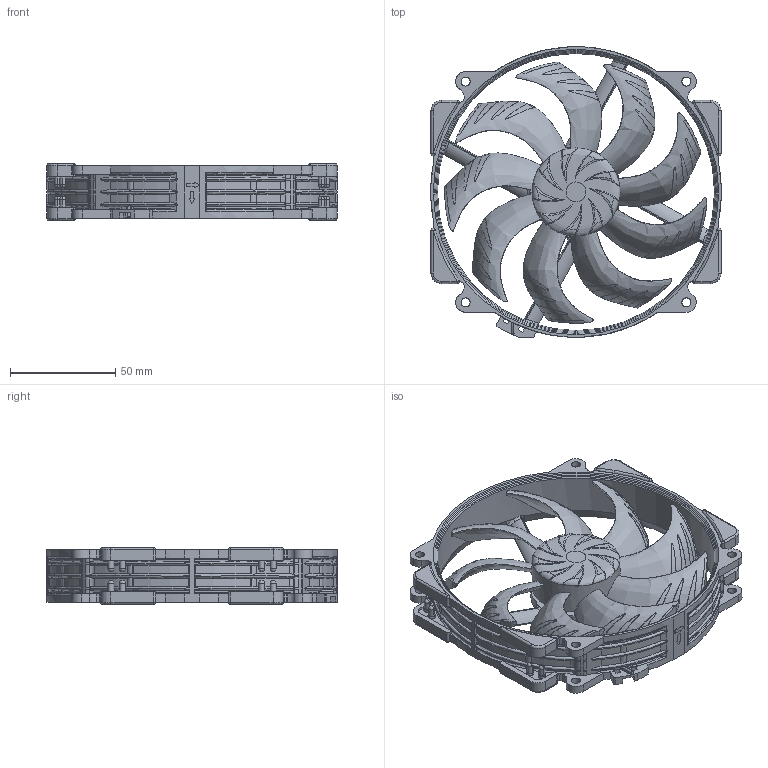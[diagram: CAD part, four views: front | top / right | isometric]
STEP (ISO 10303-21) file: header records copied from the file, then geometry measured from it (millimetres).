
FILE_DESCRIPTION(/* description */ ('140mm Desk Fan'),/* implementation_level */ '2;1');
FILE_NAME(/* name */ 'NF-A14x25r_G2_Public-CAD',/* time_stamp */ '2026-04-09T17:33:02+02:00',/* author */ ('Andreas'),/* organization */ ('Rascom'),/* preprocessor_version */ 'ST-DEVELOPER v18.102',/* originating_system */ 'Solid Edge',/* authorisation */ 'Unknown');
FILE_SCHEMA (('AP203_CONFIGURATION_CONTROLLED_3D_DESIGN_OF_MECHANICAL_PARTS_AND_ASSEMBLIES_MIM_LF { 1 0 10303 203 3 1 4 }','AUTOMOTIVE_DESIGN {1 0 10303 214 3 1 1}'));
Products named in the file (6): NF-A14x25r_G2_Public-CAD; NF-A14x25r_G2_Frame-Public; NF-A14x25_G2_Impeller-Public; NA-AVP3a; NA-AVP3b; Fan-Label-D38mm-G2
Assembly tree (11 placements, depth 2):
  NF-A14x25r_G2_Public-CAD
    NF-A14x25r_G2_Frame-Public
    NF-A14x25_G2_Impeller-Public
    NA-AVP3a  x4
    NA-AVP3b  x4
    Fan-Label-D38mm-G2
Bounding box: 138 x 138.4 x 27 mm (x, y, z)
Volume: 104575.3 mm3; surface area: 74862.9 mm2
Topology: 11 solids, 11 shells, 2415 faces, 6657 edges, 4350 vertices
Faces by surface type: cylinder 977, plane 817, torus 242, bspline 227, cone 101, sphere 51
Full cylindrical faces by diameter (mm): 38 x1, 41.858 x1, 131.81 x1
Entity records: 78836 total; most frequent: CARTESIAN_POINT 36142, ORIENTED_EDGE 9610, DIRECTION 7184, EDGE_CURVE 4805, VERTEX_POINT 3153, AXIS2_PLACEMENT_3D 2628, EDGE_LOOP 1932, FACE_BOUND 1932
